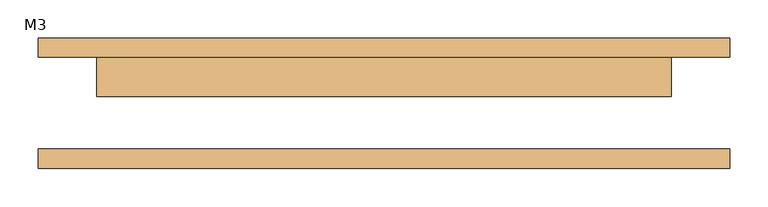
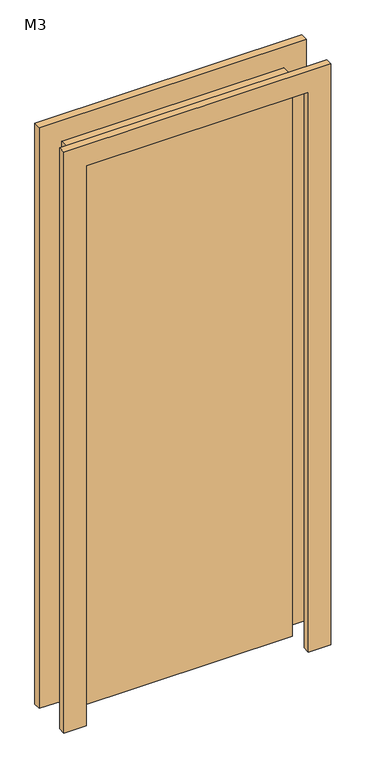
"""IFC4 building model written with IfcOpenShell, lengths in millimetres: door geometry, 单扇 - 与墙齐 : M3."""

from ifc_helpers import new_model, si_unit, frame, origin, origin_with_axes, place, context, project, spatial, polyline, outline, extrude, source, transform, mapped, element, save


def m3_b9aba31e(model_context):
    return source(origin(), model_context, "Body", "SweptSolid", [
        extrude(outline(polyline([(2076.0, -451.0), (0.0, -451.0), (0.0, -375.0), (2000.0, -375.0), (2000.0, 375.0), (0.0, 375.0), (0.0, 451.0), (2076.0, 451.0), (2076.0, -451.0)])), frame((0.0, 60.0, 0.0), z_axis=(0.0, 1.0, 0.0), x_axis=(0.0, 0.0, 1.0)), (0.0, 0.0, 1.0), 25.0),
        extrude(outline(polyline([(2076.0, 451.0), (2076.0, -451.0), (0.0, -451.0), (0.0, -375.0), (2000.0, -375.0), (2000.0, 375.0), (0.0, 375.0), (0.0, 451.0), (2076.0, 451.0)])), frame((0.0, -85.0, 0.0), z_axis=(0.0, 1.0, 0.0), x_axis=(0.0, 0.0, 1.0)), (0.0, 0.0, 1.0), 25.0),
        extrude(outline(polyline([(375.0, 9.0), (-375.0, 9.0), (-375.0, 60.0), (375.0, 60.0), (375.0, 9.0)])), origin_with_axes(), (0.0, 0.0, 1.0), 2000.0),
    ])


if __name__ == "__main__":
    model = new_model("IFC4")
    model_context = context("Model", 3, world=origin())
    ifc_project = project(units=[si_unit("LENGTHUNIT", "METRE", prefix="MILLI")], contexts=[model_context])
    site = spatial("IfcSite", under=ifc_project)
    building = spatial("IfcBuilding", under=site)
    placement = place(None, origin())
    m3_shape = m3_b9aba31e(model_context)
    element("IfcDoor", 1, ObjectType="单扇 - 与墙齐 : M3", at=placement, inside=building, context=model_context, shape_type="MappedRepresentation", body=[
        mapped(m3_shape, transform((0.0, 0.0, 0.0), x_axis=(1.0, 0.0, 0.0), y_axis=(0.0, 1.0, 0.0), z_axis=(0.0, 0.0, 1.0))),
    ])
    save(model, "model.ifc")
